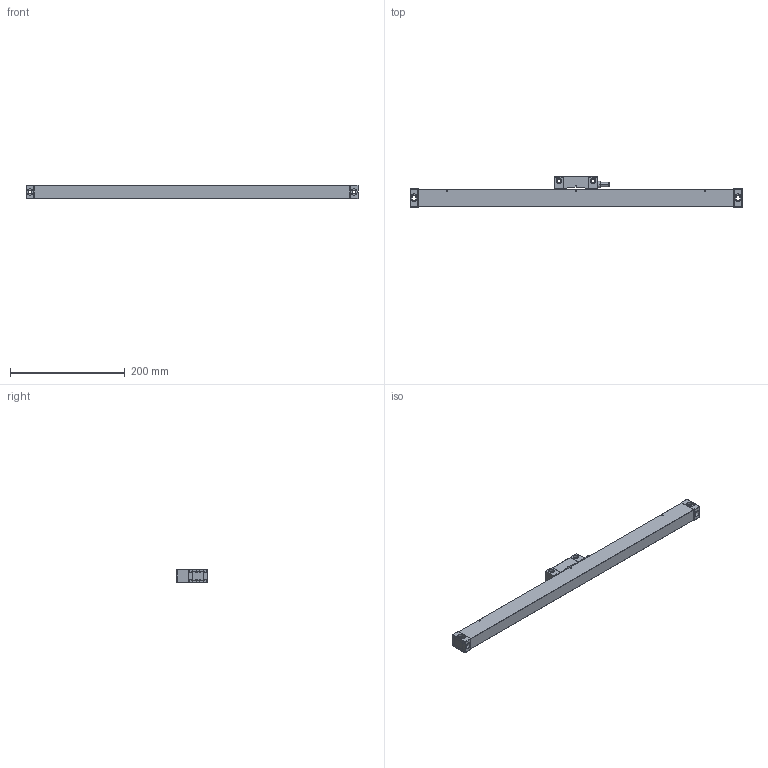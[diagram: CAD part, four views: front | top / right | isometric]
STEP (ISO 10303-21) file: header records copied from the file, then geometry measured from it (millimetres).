
FILE_DESCRIPTION (( 'STEP AP214' ), '1' );
FILE_NAME ('JCXE450-W5.step', '2023-05-18T05:33:33', ( 'Windows 蚚誧' ), ( '' ), 'SwSTEP 2.0', 'SolidWorks 2016', '' );
FILE_SCHEMA (( 'AUTOMOTIVE_DESIGN' ));
Length unit declared in the file: millimetre
Products named in the file (1): JCXE450-W5
Bounding box: 578 x 52.5 x 23.5 mm (x, y, z)
Volume: 398280.2 mm3; surface area: 75307.9 mm2
Topology: 2 solids, 2 shells, 307 faces, 756 edges, 466 vertices
Faces by surface type: cylinder 138, plane 134, torus 22, sphere 11, cone 2
Entity records: 9260 total; most frequent: CARTESIAN_POINT 1860, DIRECTION 1588, ORIENTED_EDGE 1486, EDGE_CURVE 743, AXIS2_PLACEMENT_3D 596, VERTEX_POINT 464, VECTOR 396, LINE 396
